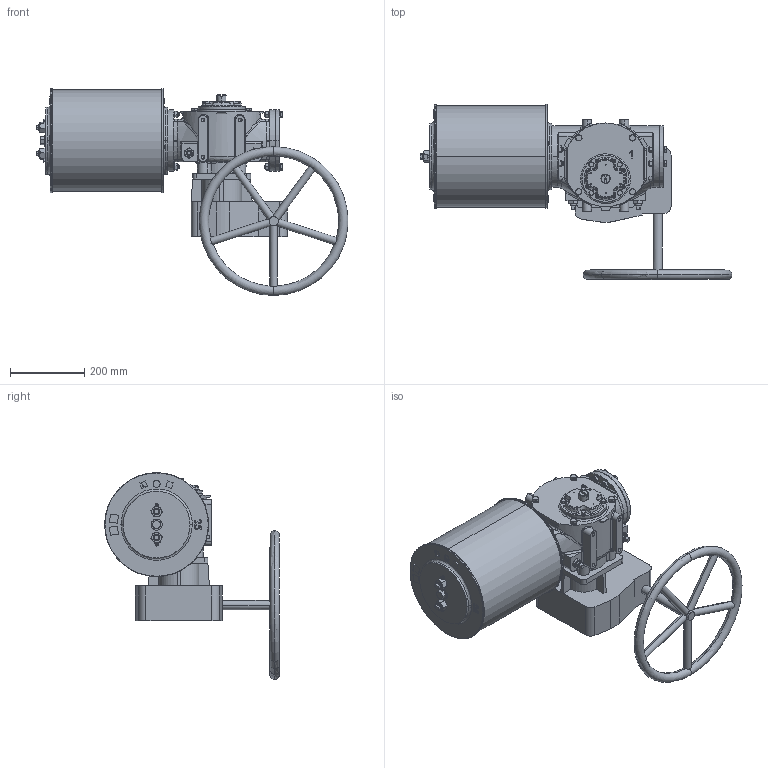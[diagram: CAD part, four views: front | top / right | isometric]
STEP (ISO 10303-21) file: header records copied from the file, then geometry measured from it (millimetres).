
FILE_DESCRIPTION (( 'STEP AP203' ), '1' );
FILE_NAME ('VTS1-250-MW.STEP', '2023-01-01T07:42:01', ( '' ), ( '' ), 'SwSTEP 2.0', 'SolidWorks 2020', '' );
FILE_SCHEMA (( 'CONFIG_CONTROL_DESIGN' ));
Length unit declared in the file: millimetre
Products named in the file (1): VTS1-250-MW
Bounding box: 839.5 x 470.5 x 556.5 mm (x, y, z)
Volume: 33615982.3 mm3; surface area: 1412568.6 mm2
Topology: 8 solids, 14 shells, 1854 faces, 4893 edges, 3103 vertices
Faces by surface type: plane 718, cylinder 514, cone 337, bspline 223, torus 34, sphere 28
Entity records: 83134 total; most frequent: CARTESIAN_POINT 40899, ORIENTED_EDGE 9626, DIRECTION 7583, EDGE_CURVE 4813, VERTEX_POINT 3103, AXIS2_PLACEMENT_3D 2866, EDGE_LOOP 2032, ADVANCED_FACE 1854
